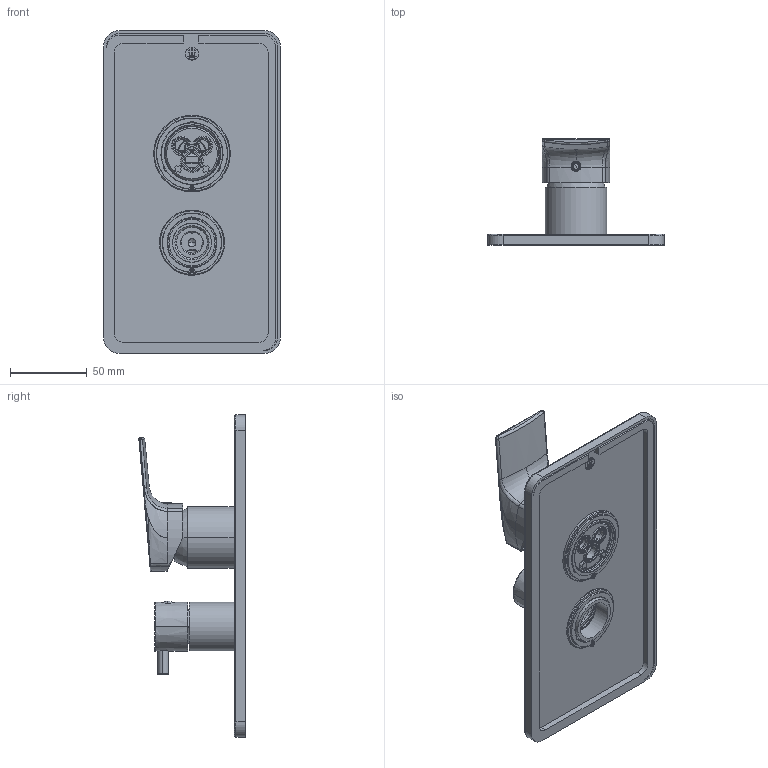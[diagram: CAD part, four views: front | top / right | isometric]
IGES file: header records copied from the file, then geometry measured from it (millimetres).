
Start section:  PTC IGES file: 3d_sw0001.igs
Global section: file name: 3d_sw0001.igs; native system: Creo Parametric by PTC Inc.; preprocessor: 2022014; author: volponeff; organization: Unknown; date: 20251007.113410; units: millimetre
Bounding box: 115 x 69.24 x 210 mm (x, y, z)
Surface area: 120456.5 mm2 (no closed solid volume)
Topology: 0 solids, 0 shells, 1351 faces, 7650 edges, 7624 vertices
Faces by surface type: revolution 795, bspline 556
